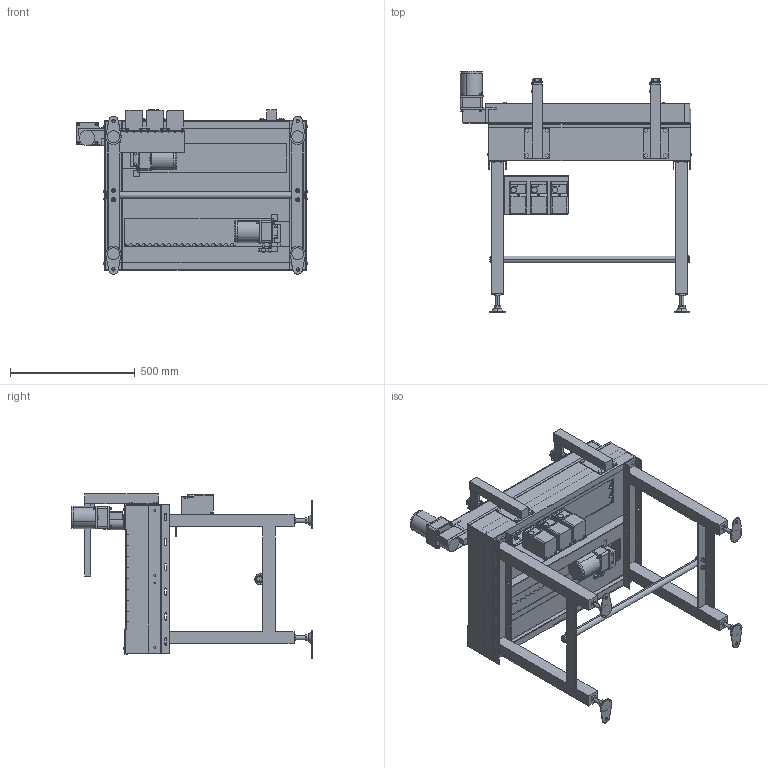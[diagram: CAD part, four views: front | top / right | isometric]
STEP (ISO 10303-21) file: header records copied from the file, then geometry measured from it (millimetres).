
FILE_DESCRIPTION( (''), '2;1');
FILE_NAME ('SGA-304x3-400-L-IVH-15-D.stp','2025-01-31T09:14:21',(''),(''),'spGate 20.6.2 (****-****-****-****)','','');
FILE_SCHEMA (('AUTOMOTIVE_DESIGN'));
Length unit declared in the file: millimetre
Products named in the file (91): NewModel; TEMP_X_T-prt0; TEMP_X_T-prt1; TEMP_X_T-prt2; TEMP_X_T-prt3; TEMP_X_T-prt4; TEMP_X_T-prt5; TEMP_X_T-prt6; TEMP_X_T-prt7; TEMP_X_T-prt8; TEMP_X_T-prt9; TEMP_X_T-prt10; TEMP_X_T-prt11; TEMP_X_T-prt12; TEMP_X_T-prt13; TEMP_X_T-prt14; TEMP_X_T-prt15; TEMP_X_T-prt16; TEMP_X_T-prt17; TEMP_X_T-prt18; TEMP_X_T-prt19; TEMP_X_T-prt20; TEMP_X_T-prt21; TEMP_X_T-prt22; TEMP_X_T-prt23; TEMP_X_T-prt24; TEMP_X_T-prt25; TEMP_X_T-prt26; TEMP_X_T-prt27; TEMP_X_T-prt28; TEMP_X_T-prt29; TEMP_X_T-prt30; TEMP_X_T-prt31; TEMP_X_T-prt32; TEMP_X_T-prt33; TEMP_X_T-prt34; TEMP_X_T-prt35; TEMP_X_T-prt36; TEMP_X_T-prt37; TEMP_X_T-prt38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
Assembly tree (90 placements, depth 2):
  NewModel
    TEMP_X_T-prt0
    TEMP_X_T-prt1
    TEMP_X_T-prt2
    TEMP_X_T-prt3
    TEMP_X_T-prt4
    TEMP_X_T-prt5
    TEMP_X_T-prt6
    TEMP_X_T-prt7
    TEMP_X_T-prt8
    TEMP_X_T-prt9
    TEMP_X_T-prt10
    TEMP_X_T-prt11
    TEMP_X_T-prt12
    TEMP_X_T-prt13
    TEMP_X_T-prt14
    TEMP_X_T-prt15
    TEMP_X_T-prt16
    TEMP_X_T-prt17
    TEMP_X_T-prt18
    TEMP_X_T-prt19
    TEMP_X_T-prt20
    TEMP_X_T-prt21
    TEMP_X_T-prt22
    TEMP_X_T-prt23
    TEMP_X_T-prt24
    TEMP_X_T-prt25
    TEMP_X_T-prt26
    TEMP_X_T-prt27
    TEMP_X_T-prt28
    TEMP_X_T-prt29
    TEMP_X_T-prt30
    TEMP_X_T-prt31
    TEMP_X_T-prt32
    TEMP_X_T-prt33
    TEMP_X_T-prt34
    TEMP_X_T-prt35
    TEMP_X_T-prt36
    TEMP_X_T-prt37
    TEMP_X_T-prt38
    TEMP_X_T-prt39
    TEMP_X_T-prt40
    TEMP_X_T-prt41
    TEMP_X_T-prt42
    TEMP_X_T-prt43
    TEMP_X_T-prt44
    TEMP_X_T-prt45
    TEMP_X_T-prt46
    TEMP_X_T-prt47
    TEMP_X_T-prt48
    TEMP_X_T-prt49
    TEMP_X_T-prt50
    TEMP_X_T-prt51
    TEMP_X_T-prt52
    TEMP_X_T-prt53
    TEMP_X_T-prt54
    TEMP_X_T-prt55
    TEMP_X_T-prt56
    TEMP_X_T-prt57
    TEMP_X_T-prt58
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Bounding box: 930.8 x 969.4 x 660 mm (x, y, z)
Volume: 24488991.5 mm3; surface area: 5507058.3 mm2
Topology: 90 solids, 90 shells, 3255 faces, 8046 edges, 5144 vertices
Faces by surface type: plane 2146, cylinder 750, bspline 343, sphere 16
Entity records: 167022 total; most frequent: CARTESIAN_POINT 24046, ORIENTED_EDGE 16004, DIRECTION 15041, COLOUR_RGB 11347, PRESENTATION_STYLE_ASSIGNMENT 11347, STYLED_ITEM 11347, EDGE_CURVE 8002, DRAUGHTING_PRE_DEFINED_CURVE_FONT 8002
